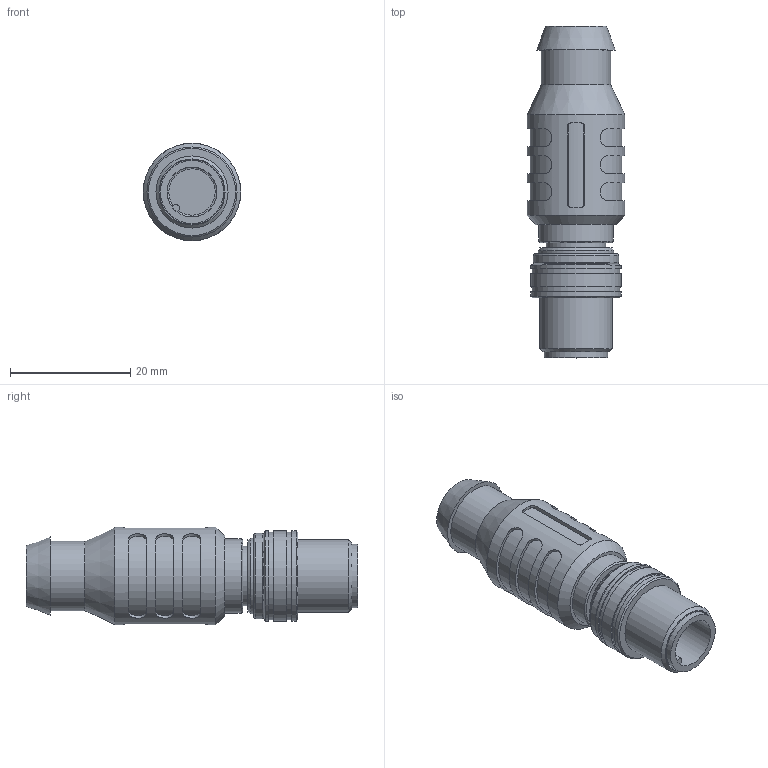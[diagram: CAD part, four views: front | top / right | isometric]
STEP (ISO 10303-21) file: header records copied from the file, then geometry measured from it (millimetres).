
FILE_DESCRIPTION((''),'2;1');
FILE_NAME('C:\TurckZip\MFGD0112.stp','2008-08-11T11:54:32',('IKOROL'),(''),'Autodesk Inventor 2008','Autodesk Inventor 2008','');
FILE_SCHEMA(('CONFIG_CONTROL_DESIGN'));
Length unit declared in the file: millimetre
Products named in the file (1): Part1
Bounding box: 16.21 x 55.2 x 16.21 mm (x, y, z)
Volume: 7447.5 mm3; surface area: 4486.6 mm2
Topology: 1 solids, 1 shells, 121 faces, 316 edges, 213 vertices
Faces by surface type: cylinder 57, plane 45, cone 7, torus 6, bspline 6
Full cylindrical faces by diameter (mm): 1.8 x1, 8.3 x1, 9.9 x2, 10.5 x1, 10.8 x1, 11 x1, 11.503 x1, 12 x1, 12.311 x1, 12.5 x1, 14.2 x1, 14.5 x2, 15 x3, 16.206 x1
Entity records: 4633 total; most frequent: CARTESIAN_POINT 1832, ORIENTED_EDGE 540, DIRECTION 535, EDGE_CURVE 270, AXIS2_PLACEMENT_3D 228, VERTEX_POINT 201, EDGE_LOOP 177, FACE_OUTER_BOUND 121
